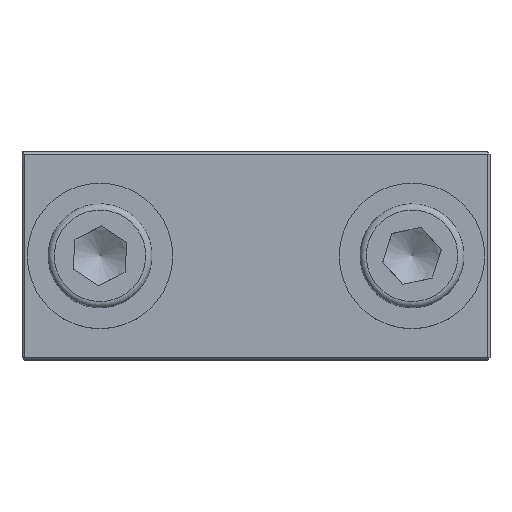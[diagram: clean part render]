
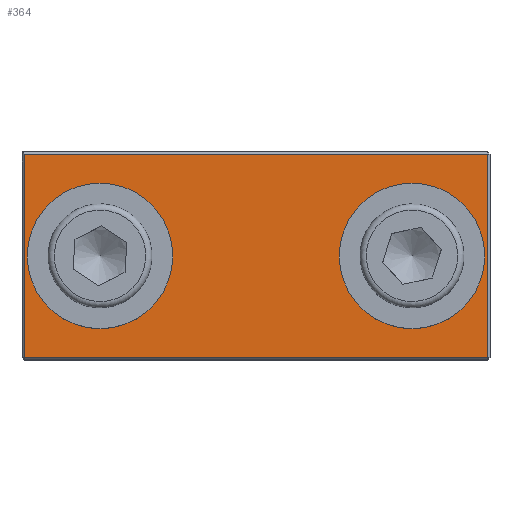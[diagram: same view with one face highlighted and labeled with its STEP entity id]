
A CAD part, top view. The second image highlights one B-rep face of the part: STEP entity #364.
In plain terms, the highlighted planar face has unit normal (0, 0, 1).
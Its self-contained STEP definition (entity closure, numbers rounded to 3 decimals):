
#299=CARTESIAN_POINT('',(18.4,0.,2.5));
#300=VERTEX_POINT('',#299);
#301=CARTESIAN_POINT('',(15.0,0.0,2.5));
#302=DIRECTION('',(0.0,0.0,1.0));
#303=DIRECTION('',(-1.0,0.0,0.0));
#304=AXIS2_PLACEMENT_3D('',#301,#302,#303);
#305=CIRCLE('',#304,3.4);
#306=EDGE_CURVE('',#300,#300,#305,.T.);
#311=CARTESIAN_POINT('',(0.,0.,2.5));
#312=DIRECTION('',(0.0,0.0,1.0));
#313=DIRECTION('',(1.0,0.0,0.0));
#314=AXIS2_PLACEMENT_3D('',#311,#312,#313);
#315=PLANE('',#314);
#316=CARTESIAN_POINT('',(22.3,-9.8,2.5));
#317=VERTEX_POINT('',#316);
#318=CARTESIAN_POINT('',(-22.3,-9.8,2.5));
#319=VERTEX_POINT('',#318);
#320=CARTESIAN_POINT('',(22.3,-9.8,2.5));
#321=DIRECTION('',(-1.0,0.0,0.0));
#322=VECTOR('',#321,44.6);
#323=LINE('',#320,#322);
#324=EDGE_CURVE('',#317,#319,#323,.T.);
#325=ORIENTED_EDGE('',*,*,#324,.F.);
#326=CARTESIAN_POINT('',(22.3,9.8,2.5));
#327=VERTEX_POINT('',#326);
#328=CARTESIAN_POINT('',(22.3,9.8,2.5));
#329=DIRECTION('',(0.0,-1.0,0.0));
#330=VECTOR('',#329,19.6);
#331=LINE('',#328,#330);
#332=EDGE_CURVE('',#327,#317,#331,.T.);
#333=ORIENTED_EDGE('',*,*,#332,.F.);
#334=CARTESIAN_POINT('',(-22.3,9.8,2.5));
#335=VERTEX_POINT('',#334);
#336=CARTESIAN_POINT('',(-22.3,9.8,2.5));
#337=DIRECTION('',(1.0,0.0,0.0));
#338=VECTOR('',#337,44.6);
#339=LINE('',#336,#338);
#340=EDGE_CURVE('',#335,#327,#339,.T.);
#341=ORIENTED_EDGE('',*,*,#340,.F.);
#342=CARTESIAN_POINT('',(-22.3,-9.8,2.5));
#343=DIRECTION('',(0.0,1.0,0.0));
#344=VECTOR('',#343,19.6);
#345=LINE('',#342,#344);
#346=EDGE_CURVE('',#319,#335,#345,.T.);
#347=ORIENTED_EDGE('',*,*,#346,.F.);
#348=EDGE_LOOP('',(#325,#333,#341,#347));
#349=FACE_OUTER_BOUND('',#348,.T.);
#350=CARTESIAN_POINT('',(-11.6,0.,2.5));
#351=VERTEX_POINT('',#350);
#352=CARTESIAN_POINT('',(-15.0,0.0,2.5));
#353=DIRECTION('',(0.0,0.0,1.0));
#354=DIRECTION('',(-1.0,0.0,0.0));
#355=AXIS2_PLACEMENT_3D('',#352,#353,#354);
#356=CIRCLE('',#355,3.4);
#357=EDGE_CURVE('',#351,#351,#356,.T.);
#358=ORIENTED_EDGE('',*,*,#357,.F.);
#359=EDGE_LOOP('',(#358));
#360=FACE_BOUND('',#359,.T.);
#361=ORIENTED_EDGE('',*,*,#306,.F.);
#362=EDGE_LOOP('',(#361));
#363=FACE_BOUND('',#362,.T.);
#364=ADVANCED_FACE('',(#349,#360,#363),#315,.T.);
